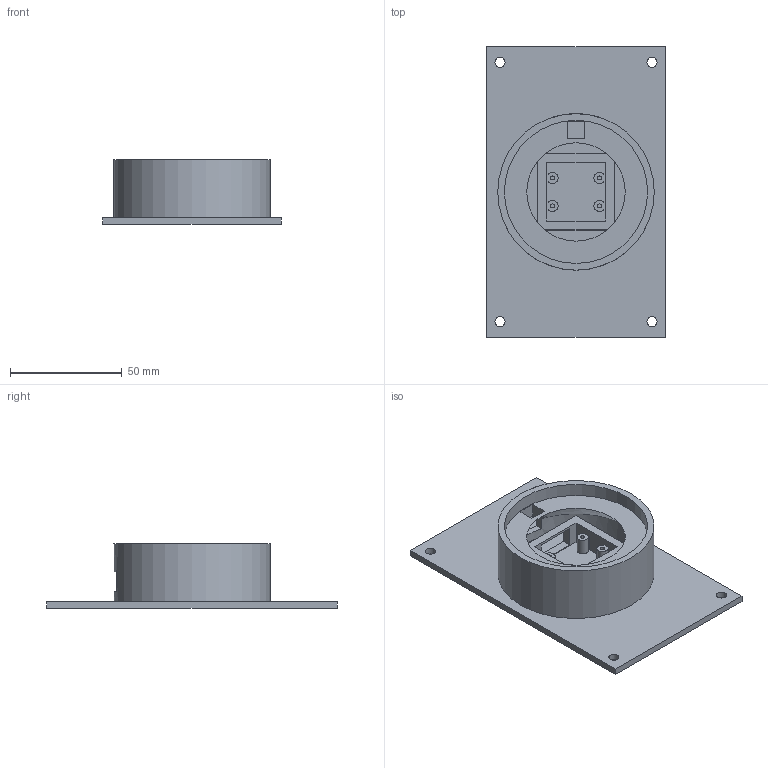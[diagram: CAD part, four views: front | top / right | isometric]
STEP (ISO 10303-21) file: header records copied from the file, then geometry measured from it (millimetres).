
FILE_DESCRIPTION(('Open CASCADE Model'),'2;1');
FILE_NAME('Open CASCADE Shape Model','2026-10-27T22:13:55',('Author'),( 'Open CASCADE'),'Open CASCADE STEP processor 7.9','Open CASCADE 7.9' ,'Unknown');
FILE_SCHEMA(('AUTOMOTIVE_DESIGN { 1 0 10303 214 1 1 1 1 }'));
Length unit declared in the file: millimetre
Products named in the file (1): Open CASCADE STEP translator 7.9 1
Bounding box: 80 x 130 x 29 mm (x, y, z)
Volume: 65018.8 mm3; surface area: 38566.3 mm2
Topology: 1 solids, 1 shells, 64 faces, 165 edges, 110 vertices
Faces by surface type: plane 48, cylinder 15, cone 1
Full cylindrical faces by diameter (mm): 1.8 x4, 4.5 x4, 64 x2, 70 x1
Entity records: 4158 total; most frequent: CARTESIAN_POINT 708, DIRECTION 662, LINE 402, VECTOR 402, ORIENTED_EDGE 330, PCURVE 330, DEFINITIONAL_REPRESENTATION 330, EDGE_CURVE 165
